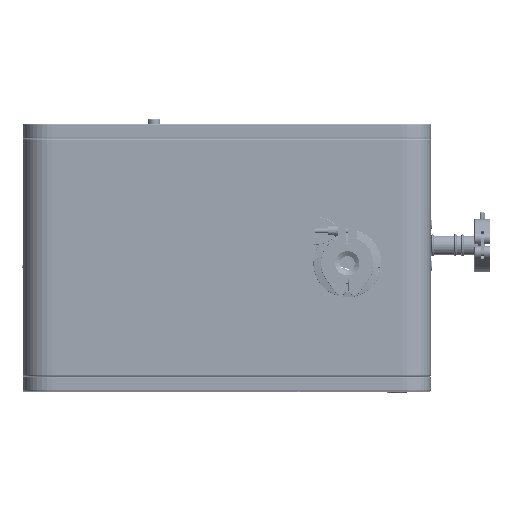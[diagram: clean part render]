
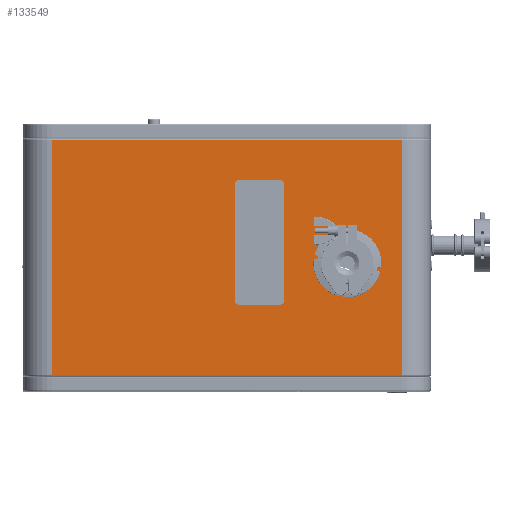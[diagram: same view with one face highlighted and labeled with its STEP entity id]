
A CAD part, top view. The second image highlights one B-rep face of the part: STEP entity #133549.
In plain terms, the highlighted planar face has unit normal (0, 0, 1).
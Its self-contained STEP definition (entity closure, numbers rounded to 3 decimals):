
#800 = AXIS2_PLACEMENT_3D ( 'NONE', #181301, #136308, #88287 ) ;
#2866 = CARTESIAN_POINT ( 'NONE',  ( -51.891, 71.662, 866.573 ) ) ;
#2929 = EDGE_CURVE ( 'NONE', #23494, #162278, #205615, .T. ) ;
#3690 = LINE ( 'NONE', #195972, #61347 ) ;
#5415 = CARTESIAN_POINT ( 'NONE',  ( -0.891, 71.662, 866.573 ) ) ;
#7399 = DIRECTION ( 'NONE',  ( 1., 0., 0. ) ) ;
#9468 = DIRECTION ( 'NONE',  ( 0., 0., 1. ) ) ;
#11673 = DIRECTION ( 'NONE',  ( 0., 0., 1. ) ) ;
#12207 = FACE_BOUND ( 'NONE', #40963, .T. ) ;
#13891 = VECTOR ( 'NONE', #148115, 1000. ) ;
#13896 = AXIS2_PLACEMENT_3D ( 'NONE', #22597, #40344, #101032 ) ;
#16512 = EDGE_CURVE ( 'NONE', #145618, #135594, #131312, .T. ) ;
#17121 = ORIENTED_EDGE ( 'NONE', *, *, #200519, .F. ) ;
#18356 = DIRECTION ( 'NONE',  ( 0., 1., 0. ) ) ;
#22597 = CARTESIAN_POINT ( 'NONE',  ( -47.891, -48.338, 866.573 ) ) ;
#23494 = VERTEX_POINT ( 'NONE', #2866 ) ;
#24191 = CIRCLE ( 'NONE', #157661, 4. ) ;
#26262 = VERTEX_POINT ( 'NONE', #205433 ) ;
#26828 = CARTESIAN_POINT ( 'NONE',  ( -0.891, 71.662, 866.573 ) ) ;
#26879 = CARTESIAN_POINT ( 'NONE',  ( -239.891, -126.338, 866.573 ) ) ;
#27904 = DIRECTION ( 'NONE',  ( 0., -1., 0. ) ) ;
#28670 = VERTEX_POINT ( 'NONE', #161079 ) ;
#35881 = ORIENTED_EDGE ( 'NONE', *, *, #16512, .T. ) ;
#36259 = CARTESIAN_POINT ( 'NONE',  ( 120.109, -126.338, 866.573 ) ) ;
#37470 = ORIENTED_EDGE ( 'NONE', *, *, #95457, .F. ) ;
#37553 = ORIENTED_EDGE ( 'NONE', *, *, #83824, .F. ) ;
#39597 = VERTEX_POINT ( 'NONE', #57837 ) ;
#40344 = DIRECTION ( 'NONE',  ( 0., 0., 1. ) ) ;
#40777 = VECTOR ( 'NONE', #59222, 1000. ) ;
#40963 = EDGE_LOOP ( 'NONE', ( #37553, #90720, #93096, #125966, #72758, #128718, #17121, #161523 ) ) ;
#42096 = VERTEX_POINT ( 'NONE', #98922 ) ;
#42926 = VERTEX_POINT ( 'NONE', #112580 ) ;
#44970 = EDGE_CURVE ( 'NONE', #26262, #145618, #121989, .T. ) ;
#48047 = VERTEX_POINT ( 'NONE', #192621 ) ;
#50658 = EDGE_CURVE ( 'NONE', #101641, #42096, #24191, .T. ) ;
#53423 = CARTESIAN_POINT ( 'NONE',  ( 64.109, -9.838, 866.573 ) ) ;
#55468 = CARTESIAN_POINT ( 'NONE',  ( 120.109, 116.662, 866.573 ) ) ;
#55751 = AXIS2_PLACEMENT_3D ( 'NONE', #53423, #9468, #7399 ) ;
#55823 = CARTESIAN_POINT ( 'NONE',  ( -4.891, -48.338, 866.573 ) ) ;
#56843 = CARTESIAN_POINT ( 'NONE',  ( -47.891, -52.338, 866.573 ) ) ;
#57837 = CARTESIAN_POINT ( 'NONE',  ( -47.891, 75.662, 866.573 ) ) ;
#59222 = DIRECTION ( 'NONE',  ( 0., 1., 0. ) ) ;
#60826 = CIRCLE ( 'NONE', #800, 4. ) ;
#61347 = VECTOR ( 'NONE', #18356, 1000. ) ;
#61439 = DIRECTION ( 'NONE',  ( 0., -1., 0. ) ) ;
#62264 = VECTOR ( 'NONE', #61439, 1000. ) ;
#63861 = LINE ( 'NONE', #124507, #73413 ) ;
#71135 = LINE ( 'NONE', #168237, #87202 ) ;
#72758 = ORIENTED_EDGE ( 'NONE', *, *, #101263, .F. ) ;
#73413 = VECTOR ( 'NONE', #127555, 1000. ) ;
#80633 = EDGE_CURVE ( 'NONE', #135594, #48047, #63861, .T. ) ;
#83824 = EDGE_CURVE ( 'NONE', #39597, #23494, #60826, .T. ) ;
#85463 = CARTESIAN_POINT ( 'NONE',  ( -47.891, 75.662, 866.573 ) ) ;
#87202 = VECTOR ( 'NONE', #169269, 1000. ) ;
#87214 = DIRECTION ( 'NONE',  ( 0., 0., 1. ) ) ;
#88287 = DIRECTION ( 'NONE',  ( -1., 0., 0. ) ) ;
#90720 = ORIENTED_EDGE ( 'NONE', *, *, #95028, .F. ) ;
#91323 = DIRECTION ( 'NONE',  ( 1., 0., 0. ) ) ;
#92192 = EDGE_CURVE ( 'NONE', #97342, #28670, #71135, .T. ) ;
#93096 = ORIENTED_EDGE ( 'NONE', *, *, #50658, .F. ) ;
#93762 = CARTESIAN_POINT ( 'NONE',  ( 120.109, -124.338, 866.573 ) ) ;
#95028 = EDGE_CURVE ( 'NONE', #42096, #39597, #163805, .T. ) ;
#95457 = EDGE_CURVE ( 'NONE', #188662, #42926, #190941, .T. ) ;
#96940 = DIRECTION ( 'NONE',  ( 0., 1., 0. ) ) ;
#97342 = VERTEX_POINT ( 'NONE', #56843 ) ;
#98922 = CARTESIAN_POINT ( 'NONE',  ( -4.891, 75.662, 866.573 ) ) ;
#101032 = DIRECTION ( 'NONE',  ( 1., 0., 0. ) ) ;
#101263 = EDGE_CURVE ( 'NONE', #28670, #151180, #185269, .T. ) ;
#101641 = VERTEX_POINT ( 'NONE', #5415 ) ;
#102898 = ORIENTED_EDGE ( 'NONE', *, *, #138630, .F. ) ;
#104031 = CIRCLE ( 'NONE', #13896, 4. ) ;
#106322 = FACE_BOUND ( 'NONE', #143565, .T. ) ;
#109523 = CARTESIAN_POINT ( 'NONE',  ( -51.891, 71.662, 866.573 ) ) ;
#112580 = CARTESIAN_POINT ( 'NONE',  ( 39.109, -9.838, 866.573 ) ) ;
#112601 = DIRECTION ( 'NONE',  ( -1., 0., 0. ) ) ;
#114049 = ORIENTED_EDGE ( 'NONE', *, *, #175225, .F. ) ;
#121989 = LINE ( 'NONE', #93762, #137677 ) ;
#124507 = CARTESIAN_POINT ( 'NONE',  ( -239.891, 116.662, 866.573 ) ) ;
#125966 = ORIENTED_EDGE ( 'NONE', *, *, #155775, .F. ) ;
#127519 = AXIS2_PLACEMENT_3D ( 'NONE', #189266, #11673, #137089 ) ;
#127555 = DIRECTION ( 'NONE',  ( -1., 0., 0. ) ) ;
#128718 = ORIENTED_EDGE ( 'NONE', *, *, #92192, .F. ) ;
#131312 = LINE ( 'NONE', #36259, #172592 ) ;
#131817 = AXIS2_PLACEMENT_3D ( 'NONE', #55823, #87214, #91323 ) ;
#133549 = ADVANCED_FACE ( 'NONE', ( #12207, #106322, #170038 ), #152245, .T. ) ;
#135594 = VERTEX_POINT ( 'NONE', #55468 ) ;
#136308 = DIRECTION ( 'NONE',  ( 0., 0., 1. ) ) ;
#136466 = ORIENTED_EDGE ( 'NONE', *, *, #80633, .T. ) ;
#137089 = DIRECTION ( 'NONE',  ( 1., 0., 0. ) ) ;
#137677 = VECTOR ( 'NONE', #185740, 1000. ) ;
#138630 = EDGE_CURVE ( 'NONE', #42926, #188662, #159088, .T. ) ;
#143565 = EDGE_LOOP ( 'NONE', ( #37470, #102898 ) ) ;
#143940 = CARTESIAN_POINT ( 'NONE',  ( 89.109, -9.838, 866.573 ) ) ;
#145618 = VERTEX_POINT ( 'NONE', #160699 ) ;
#148115 = DIRECTION ( 'NONE',  ( -1., 0., 0. ) ) ;
#151180 = VERTEX_POINT ( 'NONE', #152918 ) ;
#152245 = PLANE ( 'NONE',  #198258 ) ;
#152918 = CARTESIAN_POINT ( 'NONE',  ( -0.891, -48.338, 866.573 ) ) ;
#154260 = LINE ( 'NONE', #26828, #40777 ) ;
#154708 = CARTESIAN_POINT ( 'NONE',  ( -4.891, 71.662, 866.573 ) ) ;
#155775 = EDGE_CURVE ( 'NONE', #151180, #101641, #154260, .T. ) ;
#157661 = AXIS2_PLACEMENT_3D ( 'NONE', #154708, #201802, #112601 ) ;
#159088 = CIRCLE ( 'NONE', #55751, 25. ) ;
#160699 = CARTESIAN_POINT ( 'NONE',  ( 120.109, -124.338, 866.573 ) ) ;
#161079 = CARTESIAN_POINT ( 'NONE',  ( -4.891, -52.338, 866.573 ) ) ;
#161523 = ORIENTED_EDGE ( 'NONE', *, *, #2929, .F. ) ;
#162278 = VERTEX_POINT ( 'NONE', #184478 ) ;
#163805 = LINE ( 'NONE', #85463, #13891 ) ;
#168237 = CARTESIAN_POINT ( 'NONE',  ( -47.891, -52.338, 866.573 ) ) ;
#169269 = DIRECTION ( 'NONE',  ( 1., 0., 0. ) ) ;
#170038 = FACE_OUTER_BOUND ( 'NONE', #200173, .T. ) ;
#171062 = DIRECTION ( 'NONE',  ( 0., 0., 1. ) ) ;
#172592 = VECTOR ( 'NONE', #96940, 1000. ) ;
#175225 = EDGE_CURVE ( 'NONE', #26262, #48047, #3690, .T. ) ;
#181301 = CARTESIAN_POINT ( 'NONE',  ( -47.891, 71.662, 866.573 ) ) ;
#184478 = CARTESIAN_POINT ( 'NONE',  ( -51.891, -48.338, 866.573 ) ) ;
#185269 = CIRCLE ( 'NONE', #131817, 4. ) ;
#185740 = DIRECTION ( 'NONE',  ( 1., 0., 0. ) ) ;
#188662 = VERTEX_POINT ( 'NONE', #143940 ) ;
#189266 = CARTESIAN_POINT ( 'NONE',  ( 64.109, -9.838, 866.573 ) ) ;
#190698 = ORIENTED_EDGE ( 'NONE', *, *, #44970, .T. ) ;
#190941 = CIRCLE ( 'NONE', #127519, 25. ) ;
#192621 = CARTESIAN_POINT ( 'NONE',  ( -239.891, 116.662, 866.573 ) ) ;
#195972 = CARTESIAN_POINT ( 'NONE',  ( -239.891, -126.338, 866.573 ) ) ;
#198258 = AXIS2_PLACEMENT_3D ( 'NONE', #26879, #171062, #27904 ) ;
#200173 = EDGE_LOOP ( 'NONE', ( #114049, #190698, #35881, #136466 ) ) ;
#200519 = EDGE_CURVE ( 'NONE', #162278, #97342, #104031, .T. ) ;
#201802 = DIRECTION ( 'NONE',  ( 0., 0., 1. ) ) ;
#205433 = CARTESIAN_POINT ( 'NONE',  ( -239.891, -124.338, 866.573 ) ) ;
#205615 = LINE ( 'NONE', #109523, #62264 ) ;
